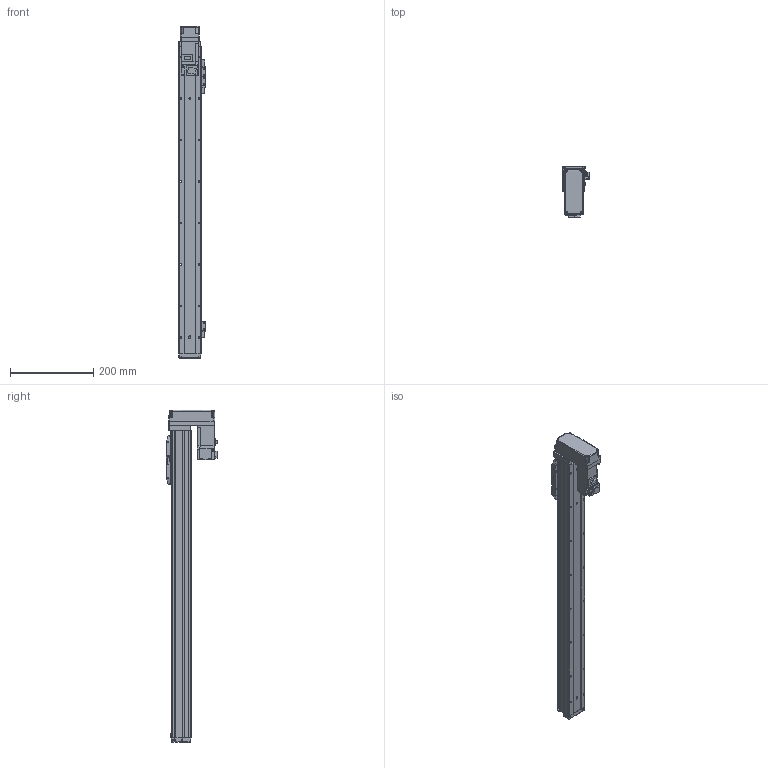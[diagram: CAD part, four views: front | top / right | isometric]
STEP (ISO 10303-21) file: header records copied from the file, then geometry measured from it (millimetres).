
FILE_DESCRIPTION (( 'STEP AP214' ), '1' );
FILE_NAME ('N_GRH5-600-BM-M10.step', '2025-03-14T10:51:04', ( '' ), ( '' ), 'SwSTEP 2.0', 'SolidWorks 2016', '' );
FILE_SCHEMA (( 'AUTOMOTIVE_DESIGN' ));
Length unit declared in the file: millimetre
Products named in the file (5): HF-KP13_100W_Motor^N_GRH5-600-BM-M10; N_GRH5-GY-004^N_GRH5-600-BM-M10; N_GRH5-600-BM-M10; N_GRH5-BL-008^N_GRH5-600-BM-M10; N_GRH5-GY-011^N_GRH5-600-BM-M10
Assembly tree (4 placements, depth 2):
  N_GRH5-600-BM-M10
    N_GRH5-GY-011^N_GRH5-600-BM-M10
    N_GRH5-GY-004^N_GRH5-600-BM-M10
    HF-KP13_100W_Motor^N_GRH5-600-BM-M10
    N_GRH5-BL-008^N_GRH5-600-BM-M10
Bounding box: 64.05 x 123.7 x 800 mm (x, y, z)
Volume: 1513889.4 mm3; surface area: 383682.4 mm2
Topology: 4 solids, 5 shells, 964 faces, 2456 edges, 1557 vertices
Faces by surface type: plane 553, cylinder 336, cone 50, bspline 15, sphere 10
Entity records: 36643 total; most frequent: CARTESIAN_POINT 5743, DIRECTION 4985, ORIENTED_EDGE 4848, EDGE_CURVE 2424, AXIS2_PLACEMENT_3D 1663, LINE 1659, VECTOR 1659, VERTEX_POINT 1555
